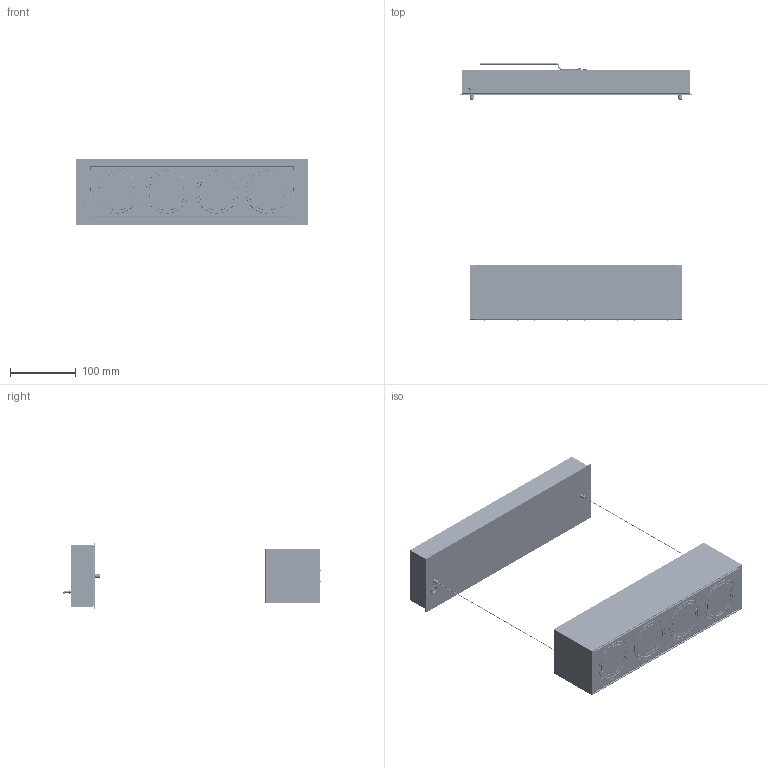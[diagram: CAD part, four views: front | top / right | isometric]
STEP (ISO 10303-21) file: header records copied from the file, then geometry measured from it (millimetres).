
FILE_DESCRIPTION (( 'STEP AP214' ), '1' );
FILE_NAME ('800296.STEP', '2023-12-11T19:02:08', ( '' ), ( '' ), 'SwSTEP 2.0', 'SolidWorks 2020', '' );
FILE_SCHEMA (( 'AUTOMOTIVE_DESIGN' ));
Length unit declared in the file: millimetre
Products named in the file (90): 440062; IP-438-48712; DPK_880065-4; 320033; IP-M3X8PHP_92005A118; SCR-M3X5WHP; 740034_CURVED; IP-M2-5X3CUPSSSS_92015A094; 890815; 471229_FINISHED; 320033(1-1098-M)_K3 updated drawing 20201203.stp; 100476; LEM_880064; 821077; NFCWL036B-V4_3D; 210-00001; IP-3-8-CLAMP_8876T38; 800296; IP-430-48720; 430041; WIRE 6 INCH 18 AWG GREEN; 100478; 900392_FINISHED ; 821081; NFCWL036B-V4_3D.STEP; 290106; CSS-CAB-116-75-SS; 580502; IMPORTED1_1_1_2_1_1_1_1_1_2_1.stp; IP-438-49222; IP-8-32KEPNUT_90675A009; RIVET-3MM-STEEL; 530406; IP-M3-5PHP_90116A147; WI-CON-BUSH-BLK-500; 420016_90134A032; 580500; 2.STEP; FA-SCR-8-32X1-2-WELD; 1.STEP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
Assembly tree (238 placements, depth 6):
  800296
    DPK_880065-4
      821081
        890815
          580500
          PEM-STUD-FH-0420-6ZI_93580A563  x2
        RIVET-3MM-STEEL
        TLW-M3ETLW_91120A120
        FW-M3FWSS_91166A210
        740034_CURVED
          WIRE 6 INCH 18 AWG GREEN
          RING TERMINAL NON INSULATED
      MDR-R1_RevA1  x4
      IP-M3-5PHP_90116A147  x10
      IP-3-8-CLAMP_8876T38  x2
      IP-M3X9LDFW_91100A120  x2
      CSS-MGR-SE-1420-EXT  x2
    900392_FINISHED 
      471229_FINISHED
      471233_FINISHED
    1X4 Cylinder Assembly
      230227_12.25 SUSPENDED CABLE
      580502  x4
      530406  x2
      430034-IPBSN-10mm X 1.0 X 19_5 THREAD LENGTH  x4
      580307  x4
      440055  x8
      IPBSW1  x4
      420016_90134A032  x4
      530410
      210-00001  x2
      580501  x2
      IP-6-32X3-16FHP_90471A431  x4
      IP-M3X8PHP_92005A118  x8
      FA-PIN-M3X12_91595A112  x8
      FA-SCR-8-32X1-2-WELD  x2
      IP-8-32KEPNUT_90675A009  x2
      LEM_880064
        821077
          100475
          100476
          NW-M3_95610A130
          SCR-M3X12PHP_92005A118
          430049_compressed
          440062
          430041  x2
        100477
        100478
        200013
        IP-M2-5X3CUPSSSS_92015A094
        290106
        IP-M2-5X10FHP_91420A020  x4
        320033
          320033(1-1098-M)_K3 updated drawing 20201203.stp
            IMPORTED1_1_1_2_1_1_1_1_1_2_1.stp
            48.stp
        SCR-M3X5WHP  x2
        IP-438-49222
          IP-438-48712
          IP-430-48720
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Bounding box: 355.4 x 392.99 x 100 mm (x, y, z)
Volume: 932392.9 mm3; surface area: 1001909.1 mm2
Topology: 257 solids, 265 shells, 25794 faces, 67172 edges, 41297 vertices
Faces by surface type: cylinder 7348, bspline 7328, plane 5198, torus 2668, cone 2286, sphere 966
Entity records: 337369 total; most frequent: CARTESIAN_POINT 173132, ORIENTED_EDGE 35594, DIRECTION 28401, EDGE_CURVE 17797, VERTEX_POINT 11039, AXIS2_PLACEMENT_3D 10973, EDGE_LOOP 7302, ADVANCED_FACE 6935
